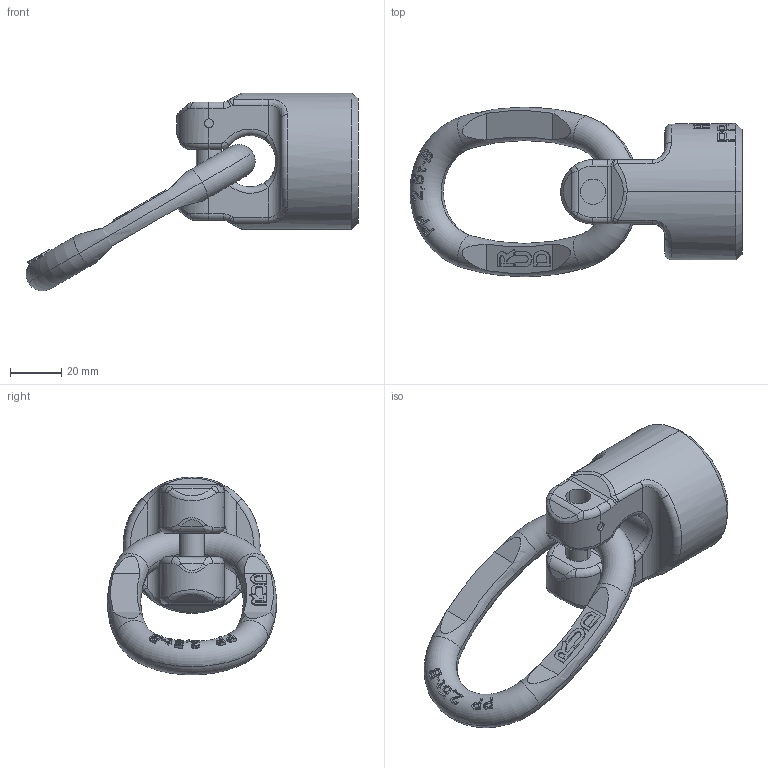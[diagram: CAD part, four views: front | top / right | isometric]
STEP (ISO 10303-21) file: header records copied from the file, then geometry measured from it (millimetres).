
FILE_DESCRIPTION((''),'2;1');
FILE_NAME('001-M31347-P-50_ASM','2018-04-26T',('Anja.Joas'),(''),'PRO/ENGINEER BY PARAMETRIC TECHNOLOGY CORPORATION, 2011490','PRO/ENGINEER BY PARAMETRIC TECHNOLOGY CORPORATION, 2011490','');
FILE_SCHEMA(('CONFIG_CONTROL_DESIGN'));
Length unit declared in the file: millimetre
Products named in the file (3): 001-M31347-P-20_AF0; 001-M31290-002; 001-M31347-P-50_ASM
Assembly tree (2 placements, depth 2):
  001-M31347-P-50_ASM
    001-M31347-P-20_AF0
    001-M31290-002
Bounding box: 129.21 x 66.08 x 77 mm (x, y, z)
Volume: 126919.1 mm3; surface area: 24860.3 mm2
Topology: 2 solids, 2 shells, 600 faces, 1614 edges, 1050 vertices
Faces by surface type: plane 475, cylinder 62, bspline 30, torus 30, cone 2, extrusion 1
Entity records: 20543 total; most frequent: CARTESIAN_POINT 6328, ORIENTED_EDGE 3228, DIRECTION 2510, EDGE_CURVE 1614, VERTEX_POINT 1050, VECTOR 842, LINE 841, AXIS2_PLACEMENT_3D 834
